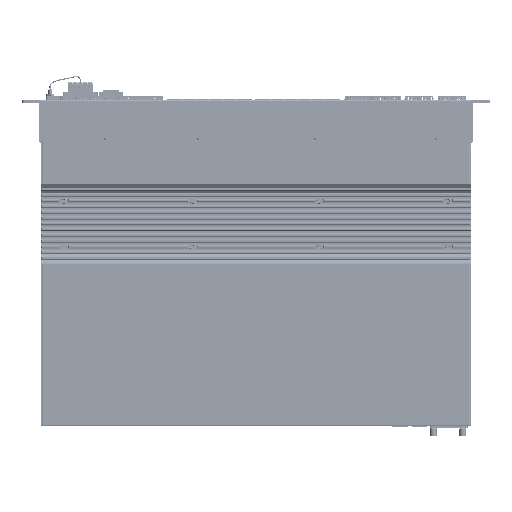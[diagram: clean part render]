
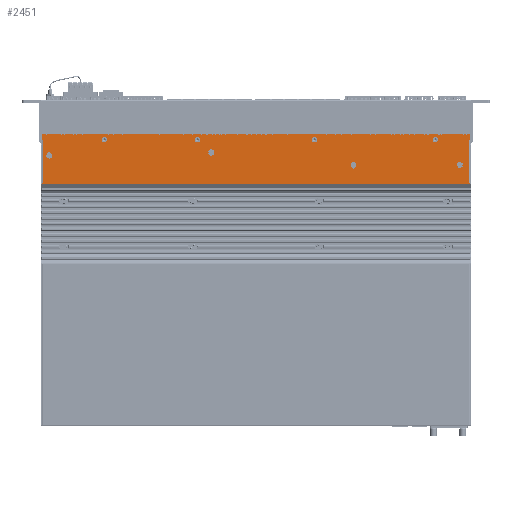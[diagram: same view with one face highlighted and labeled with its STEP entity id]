
A CAD part, front view. The second image highlights one B-rep face of the part: STEP entity #2451.
In plain terms, the highlighted planar face has unit normal (0, -1, 0).
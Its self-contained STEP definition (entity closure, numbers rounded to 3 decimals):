
#1666=CARTESIAN_POINT('',(-219.8,-21.9,-84.911));
#1667=VERTEX_POINT('',#1666);
#1675=CARTESIAN_POINT('',(-219.8,-21.9,-84.811));
#1676=VERTEX_POINT('',#1675);
#1677=CARTESIAN_POINT('',(-219.8,-21.9,-84.811));
#1678=DIRECTION('',(0.,0.,-1.));
#1679=VECTOR('',#1678,0.1);
#1680=LINE('',#1677,#1679);
#1681=EDGE_CURVE('',#1676,#1667,#1680,.T.);
#2083=CARTESIAN_POINT('',(219.8,-21.9,-84.811));
#2084=VERTEX_POINT('',#2083);
#2091=CARTESIAN_POINT('',(219.8,-21.9,-84.911));
#2092=VERTEX_POINT('',#2091);
#2093=CARTESIAN_POINT('',(219.8,-21.9,-84.911));
#2094=DIRECTION('',(-0.,-0.,1.));
#2095=VECTOR('',#2094,0.1);
#2096=LINE('',#2093,#2095);
#2097=EDGE_CURVE('',#2092,#2084,#2096,.T.);
#2194=CARTESIAN_POINT('',(219.8,-21.9,-84.911));
#2195=DIRECTION('',(-1.,0.,0.));
#2196=VECTOR('',#2195,439.6);
#2197=LINE('',#2194,#2196);
#2198=EDGE_CURVE('',#2092,#1667,#2197,.T.);
#2210=CARTESIAN_POINT('',(-218.6,-21.9,-84.811));
#2211=VERTEX_POINT('',#2210);
#2227=CARTESIAN_POINT('',(-218.6,-21.9,-84.811));
#2228=DIRECTION('',(-1.,-0.,0.));
#2229=VECTOR('',#2228,1.2);
#2230=LINE('',#2227,#2229);
#2231=EDGE_CURVE('',#2211,#1676,#2230,.T.);
#2236=CARTESIAN_POINT('',(0.,-21.9,0.));
#2237=DIRECTION('',(0.,-1.,0.));
#2238=DIRECTION('',(0.,0.,-1.));
#2239=AXIS2_PLACEMENT_3D('',#2236,#2237,#2238);
#2240=PLANE('',#2239);
#2241=CARTESIAN_POINT('',(-219.8,-21.9,-35.1));
#2242=VERTEX_POINT('',#2241);
#2243=CARTESIAN_POINT('',(-219.8,-21.9,-40.));
#2244=VERTEX_POINT('',#2243);
#2245=CARTESIAN_POINT('',(-219.8,-21.9,-35.1));
#2246=DIRECTION('',(0.,0.,-1.));
#2247=VECTOR('',#2246,4.9);
#2248=LINE('',#2245,#2247);
#2249=EDGE_CURVE('',#2242,#2244,#2248,.T.);
#2250=ORIENTED_EDGE('',*,*,#2249,.T.);
#2251=CARTESIAN_POINT('',(-218.6,-21.9,-40.));
#2252=VERTEX_POINT('',#2251);
#2253=CARTESIAN_POINT('',(-218.6,-21.9,-40.));
#2254=DIRECTION('',(-1.,0.,0.));
#2255=VECTOR('',#2254,1.2);
#2256=LINE('',#2253,#2255);
#2257=EDGE_CURVE('',#2252,#2244,#2256,.T.);
#2258=ORIENTED_EDGE('',*,*,#2257,.F.);
#2259=CARTESIAN_POINT('',(-218.6,-21.9,-84.811));
#2260=DIRECTION('',(0.,0.,1.));
#2261=VECTOR('',#2260,44.811);
#2262=LINE('',#2259,#2261);
#2263=EDGE_CURVE('',#2211,#2252,#2262,.T.);
#2264=ORIENTED_EDGE('',*,*,#2263,.F.);
#2265=ORIENTED_EDGE('',*,*,#2231,.T.);
#2266=ORIENTED_EDGE('',*,*,#1681,.T.);
#2267=ORIENTED_EDGE('',*,*,#2198,.F.);
#2268=ORIENTED_EDGE('',*,*,#2097,.T.);
#2269=CARTESIAN_POINT('',(218.6,-21.9,-84.811));
#2270=VERTEX_POINT('',#2269);
#2271=CARTESIAN_POINT('',(218.6,-21.9,-84.811));
#2272=DIRECTION('',(1.,0.,-0.));
#2273=VECTOR('',#2272,1.2);
#2274=LINE('',#2271,#2273);
#2275=EDGE_CURVE('',#2270,#2084,#2274,.T.);
#2276=ORIENTED_EDGE('',*,*,#2275,.F.);
#2277=CARTESIAN_POINT('',(218.6,-21.9,-40.));
#2278=VERTEX_POINT('',#2277);
#2279=CARTESIAN_POINT('',(218.6,-21.9,-40.));
#2280=DIRECTION('',(0.,0.,-1.));
#2281=VECTOR('',#2280,44.811);
#2282=LINE('',#2279,#2281);
#2283=EDGE_CURVE('',#2278,#2270,#2282,.T.);
#2284=ORIENTED_EDGE('',*,*,#2283,.F.);
#2285=CARTESIAN_POINT('',(219.8,-21.9,-40.));
#2286=VERTEX_POINT('',#2285);
#2287=CARTESIAN_POINT('',(218.6,-21.9,-40.));
#2288=DIRECTION('',(1.,0.,-0.));
#2289=VECTOR('',#2288,1.2);
#2290=LINE('',#2287,#2289);
#2291=EDGE_CURVE('',#2278,#2286,#2290,.T.);
#2292=ORIENTED_EDGE('',*,*,#2291,.T.);
#2293=CARTESIAN_POINT('',(219.8,-21.9,-35.1));
#2294=VERTEX_POINT('',#2293);
#2295=CARTESIAN_POINT('',(219.8,-21.9,-40.));
#2296=DIRECTION('',(-0.,-0.,1.));
#2297=VECTOR('',#2296,4.9);
#2298=LINE('',#2295,#2297);
#2299=EDGE_CURVE('',#2286,#2294,#2298,.T.);
#2300=ORIENTED_EDGE('',*,*,#2299,.T.);
#2301=CARTESIAN_POINT('',(218.8,-21.9,-34.1));
#2302=VERTEX_POINT('',#2301);
#2303=CARTESIAN_POINT('',(218.8,-21.9,-35.1));
#2304=DIRECTION('',(0.,-1.,0.));
#2305=DIRECTION('',(0.,0.,-1.));
#2306=AXIS2_PLACEMENT_3D('',#2303,#2304,#2305);
#2307=CIRCLE('',#2306,1.);
#2308=EDGE_CURVE('',#2294,#2302,#2307,.T.);
#2309=ORIENTED_EDGE('',*,*,#2308,.T.);
#2310=CARTESIAN_POINT('',(-218.8,-21.9,-34.1));
#2311=VERTEX_POINT('',#2310);
#2312=CARTESIAN_POINT('',(-218.8,-21.9,-34.1));
#2313=DIRECTION('',(1.,0.,-0.));
#2314=VECTOR('',#2313,437.6);
#2315=LINE('',#2312,#2314);
#2316=EDGE_CURVE('',#2311,#2302,#2315,.T.);
#2317=ORIENTED_EDGE('',*,*,#2316,.F.);
#2318=CARTESIAN_POINT('',(-218.8,-21.9,-35.1));
#2319=DIRECTION('',(0.,-1.,0.));
#2320=DIRECTION('',(0.,0.,-1.));
#2321=AXIS2_PLACEMENT_3D('',#2318,#2319,#2320);
#2322=CIRCLE('',#2321,1.);
#2323=EDGE_CURVE('',#2311,#2242,#2322,.T.);
#2324=ORIENTED_EDGE('',*,*,#2323,.T.);
#2325=EDGE_LOOP('',(#2250,#2258,#2264,#2265,#2266,#2267,#2268,#2276,#2284,#2292,#2300,#2309,#2317,#2324));
#2326=FACE_BOUND('',#2325,.T.);
#2327=CARTESIAN_POINT('',(60.,-21.9,-42.75));
#2328=VERTEX_POINT('',#2327);
#2329=CARTESIAN_POINT('',(60.,-21.9,-40.));
#2330=DIRECTION('',(-0.,1.,-0.));
#2331=DIRECTION('',(0.,0.,-1.));
#2332=AXIS2_PLACEMENT_3D('',#2329,#2330,#2331);
#2333=CIRCLE('',#2332,2.75);
#2334=EDGE_CURVE('',#2328,#2328,#2333,.T.);
#2335=ORIENTED_EDGE('',*,*,#2334,.T.);
#2336=EDGE_LOOP('',(#2335));
#2337=FACE_BOUND('',#2336,.T.);
#2338=CARTESIAN_POINT('',(-60.,-21.9,-42.75));
#2339=VERTEX_POINT('',#2338);
#2340=CARTESIAN_POINT('',(-60.,-21.9,-40.));
#2341=DIRECTION('',(-0.,1.,-0.));
#2342=DIRECTION('',(0.,0.,-1.));
#2343=AXIS2_PLACEMENT_3D('',#2340,#2341,#2342);
#2344=CIRCLE('',#2343,2.75);
#2345=EDGE_CURVE('',#2339,#2339,#2344,.T.);
#2346=ORIENTED_EDGE('',*,*,#2345,.T.);
#2347=EDGE_LOOP('',(#2346));
#2348=FACE_BOUND('',#2347,.T.);
#2349=CARTESIAN_POINT('',(-155.5,-21.9,-42.75));
#2350=VERTEX_POINT('',#2349);
#2351=CARTESIAN_POINT('',(-155.5,-21.9,-40.));
#2352=DIRECTION('',(-0.,1.,-0.));
#2353=DIRECTION('',(0.,0.,-1.));
#2354=AXIS2_PLACEMENT_3D('',#2351,#2352,#2353);
#2355=CIRCLE('',#2354,2.75);
#2356=EDGE_CURVE('',#2350,#2350,#2355,.T.);
#2357=ORIENTED_EDGE('',*,*,#2356,.T.);
#2358=EDGE_LOOP('',(#2357));
#2359=FACE_BOUND('',#2358,.T.);
#2360=CARTESIAN_POINT('',(-212.,-21.9,-53.3));
#2361=VERTEX_POINT('',#2360);
#2362=CARTESIAN_POINT('',(-209.3,-21.9,-56.));
#2363=VERTEX_POINT('',#2362);
#2364=CARTESIAN_POINT('',(-212.,-21.9,-56.));
#2365=DIRECTION('',(0.,1.,0.));
#2366=DIRECTION('',(0.,-0.,1.));
#2367=AXIS2_PLACEMENT_3D('',#2364,#2365,#2366);
#2368=CIRCLE('',#2367,2.7);
#2369=EDGE_CURVE('',#2361,#2363,#2368,.T.);
#2370=ORIENTED_EDGE('',*,*,#2369,.T.);
#2371=CARTESIAN_POINT('',(-212.,-21.9,-56.));
#2372=DIRECTION('',(0.,1.,0.));
#2373=DIRECTION('',(0.,-0.,1.));
#2374=AXIS2_PLACEMENT_3D('',#2371,#2372,#2373);
#2375=CIRCLE('',#2374,2.7);
#2376=EDGE_CURVE('',#2363,#2361,#2375,.T.);
#2377=ORIENTED_EDGE('',*,*,#2376,.T.);
#2378=EDGE_LOOP('',(#2370,#2377));
#2379=FACE_BOUND('',#2378,.T.);
#2380=CARTESIAN_POINT('',(209.,-21.9,-63.3));
#2381=VERTEX_POINT('',#2380);
#2382=CARTESIAN_POINT('',(211.7,-21.9,-66.));
#2383=VERTEX_POINT('',#2382);
#2384=CARTESIAN_POINT('',(209.,-21.9,-66.));
#2385=DIRECTION('',(0.,1.,0.));
#2386=DIRECTION('',(0.,-0.,1.));
#2387=AXIS2_PLACEMENT_3D('',#2384,#2385,#2386);
#2388=CIRCLE('',#2387,2.7);
#2389=EDGE_CURVE('',#2381,#2383,#2388,.T.);
#2390=ORIENTED_EDGE('',*,*,#2389,.T.);
#2391=CARTESIAN_POINT('',(209.,-21.9,-66.));
#2392=DIRECTION('',(0.,1.,0.));
#2393=DIRECTION('',(0.,-0.,1.));
#2394=AXIS2_PLACEMENT_3D('',#2391,#2392,#2393);
#2395=CIRCLE('',#2394,2.7);
#2396=EDGE_CURVE('',#2383,#2381,#2395,.T.);
#2397=ORIENTED_EDGE('',*,*,#2396,.T.);
#2398=EDGE_LOOP('',(#2390,#2397));
#2399=FACE_BOUND('',#2398,.T.);
#2400=CARTESIAN_POINT('',(100.,-21.9,-63.3));
#2401=VERTEX_POINT('',#2400);
#2402=CARTESIAN_POINT('',(102.7,-21.9,-66.));
#2403=VERTEX_POINT('',#2402);
#2404=CARTESIAN_POINT('',(100.,-21.9,-66.));
#2405=DIRECTION('',(0.,1.,0.));
#2406=DIRECTION('',(0.,-0.,1.));
#2407=AXIS2_PLACEMENT_3D('',#2404,#2405,#2406);
#2408=CIRCLE('',#2407,2.7);
#2409=EDGE_CURVE('',#2401,#2403,#2408,.T.);
#2410=ORIENTED_EDGE('',*,*,#2409,.T.);
#2411=CARTESIAN_POINT('',(100.,-21.9,-66.));
#2412=DIRECTION('',(0.,1.,0.));
#2413=DIRECTION('',(0.,-0.,1.));
#2414=AXIS2_PLACEMENT_3D('',#2411,#2412,#2413);
#2415=CIRCLE('',#2414,2.7);
#2416=EDGE_CURVE('',#2403,#2401,#2415,.T.);
#2417=ORIENTED_EDGE('',*,*,#2416,.T.);
#2418=EDGE_LOOP('',(#2410,#2417));
#2419=FACE_BOUND('',#2418,.T.);
#2420=CARTESIAN_POINT('',(-46.,-21.9,-50.3));
#2421=VERTEX_POINT('',#2420);
#2422=CARTESIAN_POINT('',(-43.3,-21.9,-53.));
#2423=VERTEX_POINT('',#2422);
#2424=CARTESIAN_POINT('',(-46.,-21.9,-53.));
#2425=DIRECTION('',(0.,1.,0.));
#2426=DIRECTION('',(0.,-0.,1.));
#2427=AXIS2_PLACEMENT_3D('',#2424,#2425,#2426);
#2428=CIRCLE('',#2427,2.7);
#2429=EDGE_CURVE('',#2421,#2423,#2428,.T.);
#2430=ORIENTED_EDGE('',*,*,#2429,.T.);
#2431=CARTESIAN_POINT('',(-46.,-21.9,-53.));
#2432=DIRECTION('',(0.,1.,0.));
#2433=DIRECTION('',(0.,-0.,1.));
#2434=AXIS2_PLACEMENT_3D('',#2431,#2432,#2433);
#2435=CIRCLE('',#2434,2.7);
#2436=EDGE_CURVE('',#2423,#2421,#2435,.T.);
#2437=ORIENTED_EDGE('',*,*,#2436,.T.);
#2438=EDGE_LOOP('',(#2430,#2437));
#2439=FACE_BOUND('',#2438,.T.);
#2440=CARTESIAN_POINT('',(184.,-21.9,-42.75));
#2441=VERTEX_POINT('',#2440);
#2442=CARTESIAN_POINT('',(184.,-21.9,-40.));
#2443=DIRECTION('',(-0.,1.,-0.));
#2444=DIRECTION('',(0.,0.,-1.));
#2445=AXIS2_PLACEMENT_3D('',#2442,#2443,#2444);
#2446=CIRCLE('',#2445,2.75);
#2447=EDGE_CURVE('',#2441,#2441,#2446,.T.);
#2448=ORIENTED_EDGE('',*,*,#2447,.T.);
#2449=EDGE_LOOP('',(#2448));
#2450=FACE_BOUND('',#2449,.T.);
#2451=ADVANCED_FACE('',(#2326,#2337,#2348,#2359,#2379,#2399,#2419,#2439,#2450),#2240,.T.);
